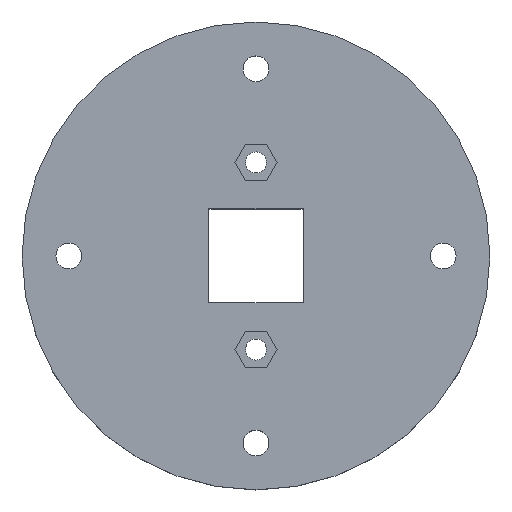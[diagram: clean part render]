
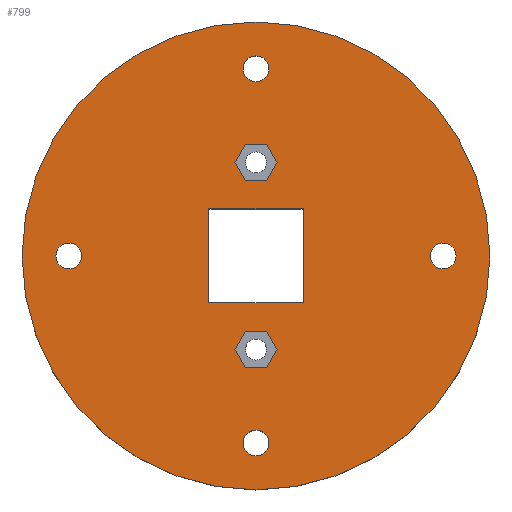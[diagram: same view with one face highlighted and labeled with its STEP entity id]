
A CAD part, top view. The second image highlights one B-rep face of the part: STEP entity #799.
In plain terms, the highlighted planar face has unit normal (0, 0, 1).
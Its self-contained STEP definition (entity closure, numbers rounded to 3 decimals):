
#39=FACE_BOUND('',#167,.T.);
#40=FACE_BOUND('',#168,.T.);
#41=FACE_BOUND('',#169,.T.);
#42=FACE_BOUND('',#170,.T.);
#43=FACE_BOUND('',#171,.T.);
#44=FACE_BOUND('',#172,.T.);
#45=FACE_BOUND('',#173,.T.);
#57=CIRCLE('',#866,2.75);
#60=CIRCLE('',#872,2.75);
#63=CIRCLE('',#878,2.75);
#66=CIRCLE('',#884,2.75);
#67=CIRCLE('',#886,50.);
#110=FACE_OUTER_BOUND('',#166,.T.);
#166=EDGE_LOOP('',(#704));
#167=EDGE_LOOP('',(#705,#706,#707,#708));
#168=EDGE_LOOP('',(#709,#710,#711,#712,#713,#714));
#169=EDGE_LOOP('',(#715,#716,#717,#718,#719,#720));
#170=EDGE_LOOP('',(#721));
#171=EDGE_LOOP('',(#722));
#172=EDGE_LOOP('',(#723));
#173=EDGE_LOOP('',(#724));
#203=LINE('',#1179,#286);
#206=LINE('',#1185,#289);
#208=LINE('',#1188,#291);
#209=LINE('',#1190,#292);
#210=LINE('',#1194,#293);
#214=LINE('',#1202,#297);
#217=LINE('',#1208,#300);
#220=LINE('',#1214,#303);
#223=LINE('',#1220,#306);
#226=LINE('',#1225,#309);
#228=LINE('',#1233,#311);
#232=LINE('',#1241,#315);
#235=LINE('',#1247,#318);
#238=LINE('',#1253,#321);
#241=LINE('',#1259,#324);
#244=LINE('',#1264,#327);
#286=VECTOR('',#953,10.);
#289=VECTOR('',#958,10.);
#291=VECTOR('',#962,10.);
#292=VECTOR('',#965,10.);
#293=VECTOR('',#968,10.);
#297=VECTOR('',#974,10.);
#300=VECTOR('',#979,10.);
#303=VECTOR('',#984,10.);
#306=VECTOR('',#989,10.);
#309=VECTOR('',#994,10.);
#311=VECTOR('',#1002,10.);
#315=VECTOR('',#1008,10.);
#318=VECTOR('',#1013,10.);
#321=VECTOR('',#1018,10.);
#324=VECTOR('',#1023,10.);
#327=VECTOR('',#1028,10.);
#367=VERTEX_POINT('',#1176);
#368=VERTEX_POINT('',#1178);
#369=VERTEX_POINT('',#1182);
#370=VERTEX_POINT('',#1184);
#371=VERTEX_POINT('',#1192);
#372=VERTEX_POINT('',#1193);
#375=VERTEX_POINT('',#1201);
#377=VERTEX_POINT('',#1207);
#379=VERTEX_POINT('',#1213);
#381=VERTEX_POINT('',#1219);
#384=VERTEX_POINT('',#1231);
#385=VERTEX_POINT('',#1232);
#388=VERTEX_POINT('',#1240);
#390=VERTEX_POINT('',#1246);
#392=VERTEX_POINT('',#1252);
#394=VERTEX_POINT('',#1258);
#399=VERTEX_POINT('',#1281);
#402=VERTEX_POINT('',#1292);
#405=VERTEX_POINT('',#1303);
#408=VERTEX_POINT('',#1314);
#409=VERTEX_POINT('',#1318);
#446=EDGE_CURVE('',#368,#367,#203,.T.);
#449=EDGE_CURVE('',#370,#369,#206,.T.);
#451=EDGE_CURVE('',#369,#368,#208,.T.);
#452=EDGE_CURVE('',#367,#370,#209,.T.);
#453=EDGE_CURVE('',#371,#372,#210,.T.);
#457=EDGE_CURVE('',#375,#371,#214,.T.);
#460=EDGE_CURVE('',#377,#375,#217,.T.);
#463=EDGE_CURVE('',#379,#377,#220,.T.);
#466=EDGE_CURVE('',#381,#379,#223,.T.);
#469=EDGE_CURVE('',#372,#381,#226,.T.);
#472=EDGE_CURVE('',#384,#385,#228,.T.);
#476=EDGE_CURVE('',#388,#384,#232,.T.);
#479=EDGE_CURVE('',#390,#388,#235,.T.);
#482=EDGE_CURVE('',#392,#390,#238,.T.);
#485=EDGE_CURVE('',#394,#392,#241,.T.);
#488=EDGE_CURVE('',#385,#394,#244,.T.);
#497=EDGE_CURVE('',#399,#399,#57,.T.);
#502=EDGE_CURVE('',#402,#402,#60,.T.);
#507=EDGE_CURVE('',#405,#405,#63,.T.);
#512=EDGE_CURVE('',#408,#408,#66,.T.);
#513=EDGE_CURVE('',#409,#409,#67,.T.);
#704=ORIENTED_EDGE('',*,*,#513,.T.);
#705=ORIENTED_EDGE('',*,*,#446,.T.);
#706=ORIENTED_EDGE('',*,*,#452,.T.);
#707=ORIENTED_EDGE('',*,*,#449,.T.);
#708=ORIENTED_EDGE('',*,*,#451,.T.);
#709=ORIENTED_EDGE('',*,*,#453,.T.);
#710=ORIENTED_EDGE('',*,*,#469,.T.);
#711=ORIENTED_EDGE('',*,*,#466,.T.);
#712=ORIENTED_EDGE('',*,*,#463,.T.);
#713=ORIENTED_EDGE('',*,*,#460,.T.);
#714=ORIENTED_EDGE('',*,*,#457,.T.);
#715=ORIENTED_EDGE('',*,*,#472,.T.);
#716=ORIENTED_EDGE('',*,*,#488,.T.);
#717=ORIENTED_EDGE('',*,*,#485,.T.);
#718=ORIENTED_EDGE('',*,*,#482,.T.);
#719=ORIENTED_EDGE('',*,*,#479,.T.);
#720=ORIENTED_EDGE('',*,*,#476,.T.);
#721=ORIENTED_EDGE('',*,*,#497,.T.);
#722=ORIENTED_EDGE('',*,*,#502,.T.);
#723=ORIENTED_EDGE('',*,*,#507,.T.);
#724=ORIENTED_EDGE('',*,*,#512,.T.);
#756=PLANE('',#887);
#799=ADVANCED_FACE('',(#110,#39,#40,#41,#42,#43,#44,#45),#756,.T.);
#866=AXIS2_PLACEMENT_3D('',#1283,#1052,#1053);
#872=AXIS2_PLACEMENT_3D('',#1294,#1066,#1067);
#878=AXIS2_PLACEMENT_3D('',#1305,#1080,#1081);
#884=AXIS2_PLACEMENT_3D('',#1316,#1094,#1095);
#886=AXIS2_PLACEMENT_3D('',#1319,#1098,#1099);
#887=AXIS2_PLACEMENT_3D('',#1321,#1101,#1102);
#953=DIRECTION('',(-1.,0.,0.));
#958=DIRECTION('',(1.,0.,0.));
#962=DIRECTION('',(0.,-1.,0.));
#965=DIRECTION('',(0.,1.,0.));
#968=DIRECTION('',(-0.5,-0.866,0.));
#974=DIRECTION('',(0.5,-0.866,0.));
#979=DIRECTION('',(1.,0.,0.));
#984=DIRECTION('',(0.5,0.866,0.));
#989=DIRECTION('',(-0.5,0.866,0.));
#994=DIRECTION('',(-1.,0.,0.));
#1002=DIRECTION('',(-0.5,-0.866,0.));
#1008=DIRECTION('',(0.5,-0.866,0.));
#1013=DIRECTION('',(1.,0.,0.));
#1018=DIRECTION('',(0.5,0.866,0.));
#1023=DIRECTION('',(-0.5,0.866,0.));
#1028=DIRECTION('',(-1.,0.,0.));
#1052=DIRECTION('center_axis',(0.,0.,-1.));
#1053=DIRECTION('ref_axis',(0.,1.,0.));
#1066=DIRECTION('center_axis',(0.,0.,-1.));
#1067=DIRECTION('ref_axis',(1.,0.,0.));
#1080=DIRECTION('center_axis',(0.,0.,-1.));
#1081=DIRECTION('ref_axis',(0.,-1.,0.));
#1094=DIRECTION('center_axis',(0.,0.,-1.));
#1095=DIRECTION('ref_axis',(-1.,0.,0.));
#1098=DIRECTION('center_axis',(0.,0.,1.));
#1099=DIRECTION('ref_axis',(1.,0.,0.));
#1101=DIRECTION('center_axis',(0.,0.,1.));
#1102=DIRECTION('ref_axis',(1.,0.,0.));
#1176=CARTESIAN_POINT('',(-10.05,-10.05,15.));
#1178=CARTESIAN_POINT('',(10.05,-10.05,15.));
#1179=CARTESIAN_POINT('',(-5.025,-10.05,15.));
#1182=CARTESIAN_POINT('',(10.05,10.05,15.));
#1184=CARTESIAN_POINT('',(-10.05,10.05,15.));
#1185=CARTESIAN_POINT('',(5.025,10.05,15.));
#1188=CARTESIAN_POINT('',(10.05,-5.025,15.));
#1190=CARTESIAN_POINT('',(-10.05,5.025,15.));
#1192=CARTESIAN_POINT('',(4.5,20.,15.));
#1193=CARTESIAN_POINT('',(2.25,16.103,15.));
#1194=CARTESIAN_POINT('',(-0.393,11.526,15.));
#1201=CARTESIAN_POINT('',(2.25,23.897,15.));
#1202=CARTESIAN_POINT('',(7.143,15.423,15.));
#1207=CARTESIAN_POINT('',(-2.25,23.897,15.));
#1208=CARTESIAN_POINT('',(-1.125,23.897,15.));
#1213=CARTESIAN_POINT('',(-4.5,20.,15.));
#1214=CARTESIAN_POINT('',(-8.268,13.474,15.));
#1219=CARTESIAN_POINT('',(-2.25,16.103,15.));
#1220=CARTESIAN_POINT('',(1.518,9.577,15.));
#1225=CARTESIAN_POINT('',(1.125,16.103,15.));
#1231=CARTESIAN_POINT('',(4.5,-20.,15.));
#1232=CARTESIAN_POINT('',(2.25,-23.897,15.));
#1233=CARTESIAN_POINT('',(8.268,-13.474,15.));
#1240=CARTESIAN_POINT('',(2.25,-16.103,15.));
#1241=CARTESIAN_POINT('',(-1.518,-9.577,15.));
#1246=CARTESIAN_POINT('',(-2.25,-16.103,15.));
#1247=CARTESIAN_POINT('',(-1.125,-16.103,15.));
#1252=CARTESIAN_POINT('',(-4.5,-20.,15.));
#1253=CARTESIAN_POINT('',(0.393,-11.526,15.));
#1258=CARTESIAN_POINT('',(-2.25,-23.897,15.));
#1259=CARTESIAN_POINT('',(-7.143,-15.423,15.));
#1264=CARTESIAN_POINT('',(1.125,-23.897,15.));
#1281=CARTESIAN_POINT('',(40.,-2.75,15.));
#1283=CARTESIAN_POINT('Origin',(40.,0.,15.));
#1292=CARTESIAN_POINT('',(-2.75,-40.,15.));
#1294=CARTESIAN_POINT('Origin',(0.,-40.,15.));
#1303=CARTESIAN_POINT('',(-40.,2.75,15.));
#1305=CARTESIAN_POINT('Origin',(-40.,0.,15.));
#1314=CARTESIAN_POINT('',(2.75,40.,15.));
#1316=CARTESIAN_POINT('Origin',(0.,40.,15.));
#1318=CARTESIAN_POINT('',(-50.,0.,15.));
#1319=CARTESIAN_POINT('Origin',(0.,0.,15.));
#1321=CARTESIAN_POINT('Origin',(0.,0.,15.));
